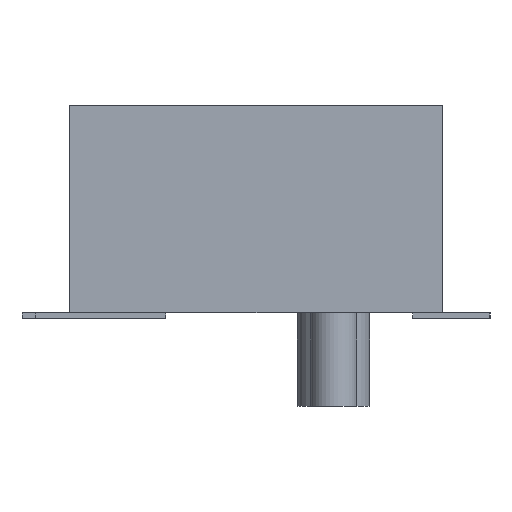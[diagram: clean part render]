
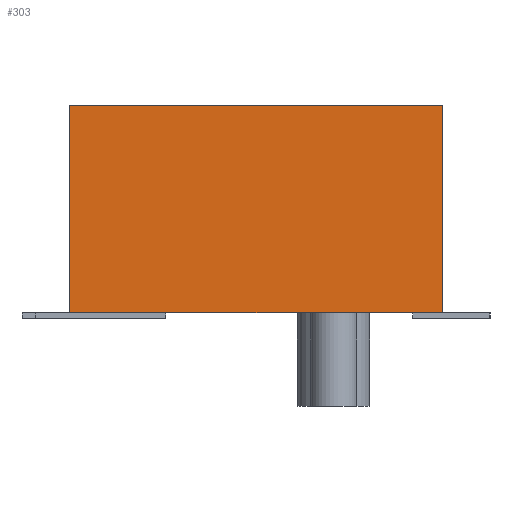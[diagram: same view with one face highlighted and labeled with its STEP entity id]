
A CAD part, left-side view. The second image highlights one B-rep face of the part: STEP entity #303.
In plain terms, the highlighted planar face has unit normal (-1, 0, 0).
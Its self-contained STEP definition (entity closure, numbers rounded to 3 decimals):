
#40 = EDGE_CURVE('',#41,#43,#45,.T.);
#41 = VERTEX_POINT('',#42);
#42 = CARTESIAN_POINT('',(-10.95,3.6,0.));
#43 = VERTEX_POINT('',#44);
#44 = CARTESIAN_POINT('',(-10.95,3.6,4.));
#45 = SURFACE_CURVE('',#46,(#50,#62),.PCURVE_S1.);
#46 = LINE('',#47,#48);
#47 = CARTESIAN_POINT('',(-10.95,3.6,0.));
#48 = VECTOR('',#49,1.);
#49 = DIRECTION('',(0.,0.,1.));
#50 = PCURVE('',#51,#56);
#51 = PLANE('',#52);
#52 = AXIS2_PLACEMENT_3D('',#53,#54,#55);
#53 = CARTESIAN_POINT('',(-10.95,3.6,0.));
#54 = DIRECTION('',(0.,1.,0.));
#55 = DIRECTION('',(1.,0.,0.));
#56 = DEFINITIONAL_REPRESENTATION('',(#57),#61);
#57 = LINE('',#58,#59);
#58 = CARTESIAN_POINT('',(0.,0.));
#59 = VECTOR('',#60,1.);
#60 = DIRECTION('',(0.,-1.));
#61 = ( GEOMETRIC_REPRESENTATION_CONTEXT(2) 
PARAMETRIC_REPRESENTATION_CONTEXT() REPRESENTATION_CONTEXT('2D SPACE',''
  ) );
#62 = PCURVE('',#63,#68);
#63 = PLANE('',#64);
#64 = AXIS2_PLACEMENT_3D('',#65,#66,#67);
#65 = CARTESIAN_POINT('',(-10.95,-3.6,0.));
#66 = DIRECTION('',(-1.,0.,0.));
#67 = DIRECTION('',(0.,1.,0.));
#68 = DEFINITIONAL_REPRESENTATION('',(#69),#73);
#69 = LINE('',#70,#71);
#70 = CARTESIAN_POINT('',(7.2,0.));
#71 = VECTOR('',#72,1.);
#72 = DIRECTION('',(0.,-1.));
#73 = ( GEOMETRIC_REPRESENTATION_CONTEXT(2) 
PARAMETRIC_REPRESENTATION_CONTEXT() REPRESENTATION_CONTEXT('2D SPACE',''
  ) );
#91 = PLANE('',#92);
#92 = AXIS2_PLACEMENT_3D('',#93,#94,#95);
#93 = CARTESIAN_POINT('',(0.,0.,4.));
#94 = DIRECTION('',(-0.,-0.,-1.));
#95 = DIRECTION('',(-1.,0.,0.));
#145 = PLANE('',#146);
#146 = AXIS2_PLACEMENT_3D('',#147,#148,#149);
#147 = CARTESIAN_POINT('',(0.,0.,0.));
#148 = DIRECTION('',(-0.,-0.,-1.));
#149 = DIRECTION('',(-1.,0.,0.));
#200 = PLANE('',#201);
#201 = AXIS2_PLACEMENT_3D('',#202,#203,#204);
#202 = CARTESIAN_POINT('',(10.95,-3.6,0.));
#203 = DIRECTION('',(0.,-1.,0.));
#204 = DIRECTION('',(-1.,0.,0.));
#238 = VERTEX_POINT('',#239);
#239 = CARTESIAN_POINT('',(-10.95,-3.6,4.));
#260 = EDGE_CURVE('',#261,#238,#263,.T.);
#261 = VERTEX_POINT('',#262);
#262 = CARTESIAN_POINT('',(-10.95,-3.6,0.));
#263 = SURFACE_CURVE('',#264,(#268,#275),.PCURVE_S1.);
#264 = LINE('',#265,#266);
#265 = CARTESIAN_POINT('',(-10.95,-3.6,0.));
#266 = VECTOR('',#267,1.);
#267 = DIRECTION('',(0.,0.,1.));
#268 = PCURVE('',#200,#269);
#269 = DEFINITIONAL_REPRESENTATION('',(#270),#274);
#270 = LINE('',#271,#272);
#271 = CARTESIAN_POINT('',(21.9,0.));
#272 = VECTOR('',#273,1.);
#273 = DIRECTION('',(0.,-1.));
#274 = ( GEOMETRIC_REPRESENTATION_CONTEXT(2) 
PARAMETRIC_REPRESENTATION_CONTEXT() REPRESENTATION_CONTEXT('2D SPACE',''
  ) );
#275 = PCURVE('',#63,#276);
#276 = DEFINITIONAL_REPRESENTATION('',(#277),#281);
#277 = LINE('',#278,#279);
#278 = CARTESIAN_POINT('',(0.,0.));
#279 = VECTOR('',#280,1.);
#280 = DIRECTION('',(0.,-1.));
#281 = ( GEOMETRIC_REPRESENTATION_CONTEXT(2) 
PARAMETRIC_REPRESENTATION_CONTEXT() REPRESENTATION_CONTEXT('2D SPACE',''
  ) );
#303 = ADVANCED_FACE('',(#304),#63,.T.);
#304 = FACE_BOUND('',#305,.T.);
#305 = EDGE_LOOP('',(#306,#307,#328,#329));
#306 = ORIENTED_EDGE('',*,*,#260,.T.);
#307 = ORIENTED_EDGE('',*,*,#308,.T.);
#308 = EDGE_CURVE('',#238,#43,#309,.T.);
#309 = SURFACE_CURVE('',#310,(#314,#321),.PCURVE_S1.);
#310 = LINE('',#311,#312);
#311 = CARTESIAN_POINT('',(-10.95,-3.6,4.));
#312 = VECTOR('',#313,1.);
#313 = DIRECTION('',(0.,1.,0.));
#314 = PCURVE('',#63,#315);
#315 = DEFINITIONAL_REPRESENTATION('',(#316),#320);
#316 = LINE('',#317,#318);
#317 = CARTESIAN_POINT('',(0.,-4.));
#318 = VECTOR('',#319,1.);
#319 = DIRECTION('',(1.,0.));
#320 = ( GEOMETRIC_REPRESENTATION_CONTEXT(2) 
PARAMETRIC_REPRESENTATION_CONTEXT() REPRESENTATION_CONTEXT('2D SPACE',''
  ) );
#321 = PCURVE('',#91,#322);
#322 = DEFINITIONAL_REPRESENTATION('',(#323),#327);
#323 = LINE('',#324,#325);
#324 = CARTESIAN_POINT('',(10.95,-3.6));
#325 = VECTOR('',#326,1.);
#326 = DIRECTION('',(0.,1.));
#327 = ( GEOMETRIC_REPRESENTATION_CONTEXT(2) 
PARAMETRIC_REPRESENTATION_CONTEXT() REPRESENTATION_CONTEXT('2D SPACE',''
  ) );
#328 = ORIENTED_EDGE('',*,*,#40,.F.);
#329 = ORIENTED_EDGE('',*,*,#330,.F.);
#330 = EDGE_CURVE('',#261,#41,#331,.T.);
#331 = SURFACE_CURVE('',#332,(#336,#343),.PCURVE_S1.);
#332 = LINE('',#333,#334);
#333 = CARTESIAN_POINT('',(-10.95,-3.6,0.));
#334 = VECTOR('',#335,1.);
#335 = DIRECTION('',(0.,1.,0.));
#336 = PCURVE('',#63,#337);
#337 = DEFINITIONAL_REPRESENTATION('',(#338),#342);
#338 = LINE('',#339,#340);
#339 = CARTESIAN_POINT('',(0.,0.));
#340 = VECTOR('',#341,1.);
#341 = DIRECTION('',(1.,0.));
#342 = ( GEOMETRIC_REPRESENTATION_CONTEXT(2) 
PARAMETRIC_REPRESENTATION_CONTEXT() REPRESENTATION_CONTEXT('2D SPACE',''
  ) );
#343 = PCURVE('',#145,#344);
#344 = DEFINITIONAL_REPRESENTATION('',(#345),#349);
#345 = LINE('',#346,#347);
#346 = CARTESIAN_POINT('',(10.95,-3.6));
#347 = VECTOR('',#348,1.);
#348 = DIRECTION('',(0.,1.));
#349 = ( GEOMETRIC_REPRESENTATION_CONTEXT(2) 
PARAMETRIC_REPRESENTATION_CONTEXT() REPRESENTATION_CONTEXT('2D SPACE',''
  ) );
